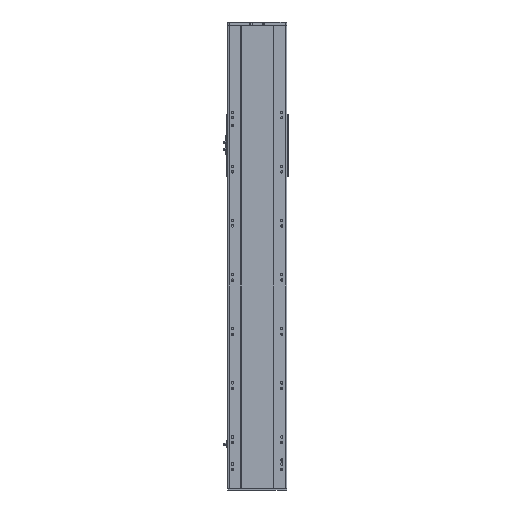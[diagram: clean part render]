
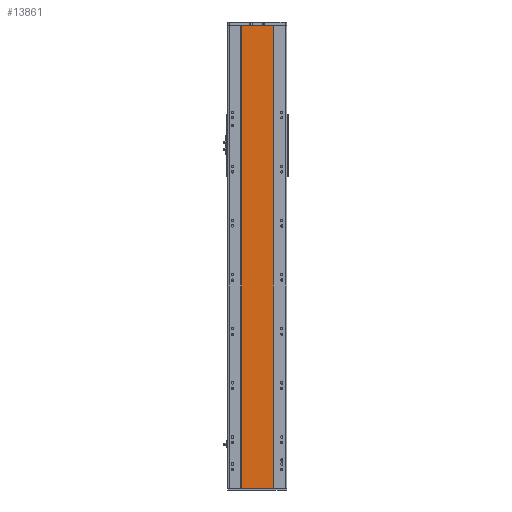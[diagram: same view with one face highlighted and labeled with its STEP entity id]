
A CAD part, front view. The second image highlights one B-rep face of the part: STEP entity #13861.
In plain terms, the highlighted planar face has unit normal (0, -1, 0).
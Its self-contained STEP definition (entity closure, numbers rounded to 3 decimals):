
#561 = DIRECTION ( 'NONE',  ( 0., 0., -1. ) ) ;
#999 = VERTEX_POINT ( 'NONE', #16632 ) ;
#1211 = FACE_OUTER_BOUND ( 'NONE', #34355, .T. ) ;
#3156 = LINE ( 'NONE', #6083, #15893 ) ;
#3668 = CARTESIAN_POINT ( 'NONE',  ( -59., 1., 855.5 ) ) ;
#4071 = DIRECTION ( 'NONE',  ( 1., 0., 0. ) ) ;
#4231 = VECTOR ( 'NONE', #25176, 1000. ) ;
#6083 = CARTESIAN_POINT ( 'NONE',  ( -59., 1., 855.5 ) ) ;
#7214 = VERTEX_POINT ( 'NONE', #37651 ) ;
#7517 = ORIENTED_EDGE ( 'NONE', *, *, #17764, .F. ) ;
#9666 = CARTESIAN_POINT ( 'NONE',  ( 59., 1., 855.5 ) ) ;
#12697 = ORIENTED_EDGE ( 'NONE', *, *, #24170, .T. ) ;
#13685 = LINE ( 'NONE', #9666, #38758 ) ;
#13861 = ADVANCED_FACE ( 'NONE', ( #1211 ), #32914, .F. ) ;
#14559 = ORIENTED_EDGE ( 'NONE', *, *, #29341, .T. ) ;
#15299 = ORIENTED_EDGE ( 'NONE', *, *, #20209, .F. ) ;
#15893 = VECTOR ( 'NONE', #26857, 1000. ) ;
#16208 = CARTESIAN_POINT ( 'NONE',  ( -59., 1., -855.5 ) ) ;
#16632 = CARTESIAN_POINT ( 'NONE',  ( 59., 1., -855.5 ) ) ;
#17576 = CARTESIAN_POINT ( 'NONE',  ( -59., 1., 855.5 ) ) ;
#17764 = EDGE_CURVE ( 'NONE', #7214, #999, #13685, .T. ) ;
#18575 = AXIS2_PLACEMENT_3D ( 'NONE', #17576, #38570, #38433 ) ;
#20209 = EDGE_CURVE ( 'NONE', #36440, #7214, #21268, .T. ) ;
#21268 = LINE ( 'NONE', #3668, #4231 ) ;
#24170 = EDGE_CURVE ( 'NONE', #34754, #999, #28474, .T. ) ;
#24221 = VECTOR ( 'NONE', #4071, 1000. ) ;
#25176 = DIRECTION ( 'NONE',  ( 1., 0., 0. ) ) ;
#26857 = DIRECTION ( 'NONE',  ( 0., 0., -1. ) ) ;
#28474 = LINE ( 'NONE', #16208, #24221 ) ;
#29341 = EDGE_CURVE ( 'NONE', #36440, #34754, #3156, .T. ) ;
#30691 = CARTESIAN_POINT ( 'NONE',  ( -59., 1., 855.5 ) ) ;
#32914 = PLANE ( 'NONE',  #18575 ) ;
#34355 = EDGE_LOOP ( 'NONE', ( #12697, #7517, #15299, #14559 ) ) ;
#34754 = VERTEX_POINT ( 'NONE', #36406 ) ;
#36406 = CARTESIAN_POINT ( 'NONE',  ( -59., 1., -855.5 ) ) ;
#36440 = VERTEX_POINT ( 'NONE', #30691 ) ;
#37651 = CARTESIAN_POINT ( 'NONE',  ( 59., 1., 855.5 ) ) ;
#38433 = DIRECTION ( 'NONE',  ( -1., 0., 0. ) ) ;
#38570 = DIRECTION ( 'NONE',  ( 0., 1., 0. ) ) ;
#38758 = VECTOR ( 'NONE', #561, 1000. ) ;
